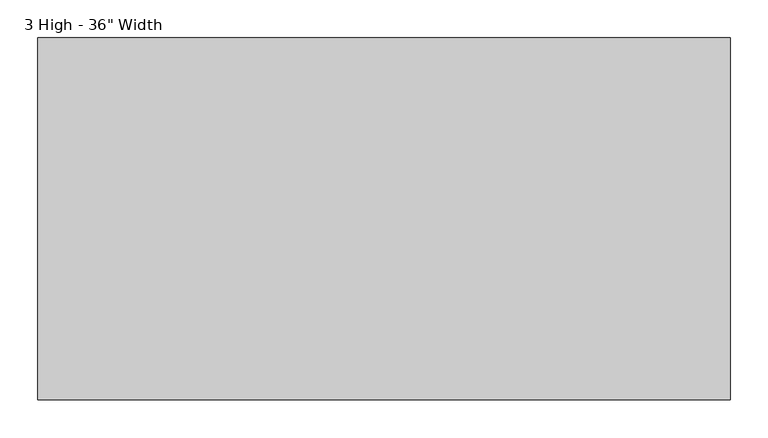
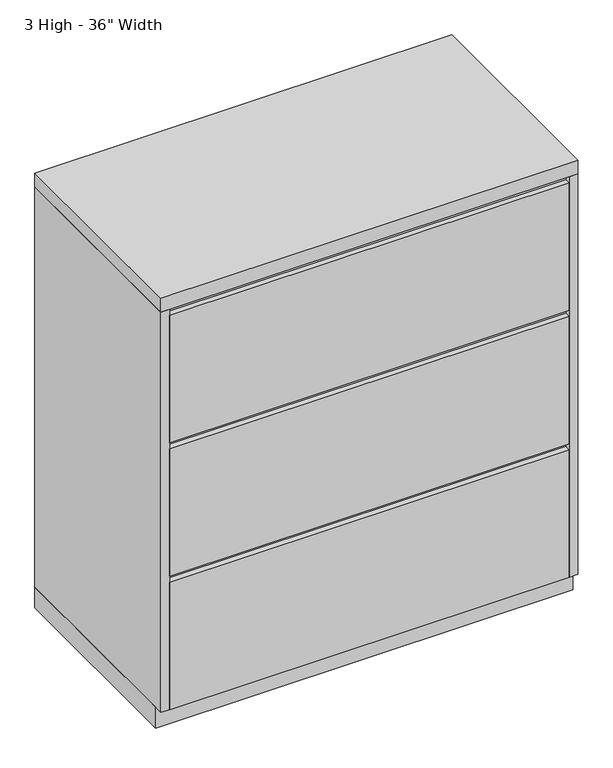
"""IFC4 building model written with IfcOpenShell, lengths in millimetres: furniture geometry."""

from ifc_helpers import new_model, si_unit, frame, origin, origin_with_axes, place, context, project, spatial, polyline, outline, extrude, source, transform, mapped, element, save


def furniture_f4e6c6b2(model_context):
    return source(origin(), model_context, "Body", "SweptSolid", [
        extrude(outline(polyline([(-457.2, 663.575), (-476.25, 663.575), (-476.25, 957.2625), (-463.55, 957.2625), (-463.55, 971.55), (-457.2, 971.55), (-457.2, 663.575)])), frame((-436.5625, 0.0, 0.0), z_axis=(1.0, 0.0, 0.0), x_axis=(0.0, 1.0, 0.0)), (0.0, 0.0, 1.0), 873.125),
        extrude(outline(polyline([(-457.2, 355.6), (-476.25, 355.6), (-476.25, 649.2875), (-463.55, 649.2875), (-463.55, 663.575), (-457.2, 663.575), (-457.2, 355.6)])), frame((-436.5625, 0.0, 0.0), z_axis=(1.0, 0.0, 0.0), x_axis=(0.0, 1.0, 0.0)), (0.0, 0.0, 1.0), 873.125),
        extrude(outline(polyline([(-457.2, 47.625), (-476.25, 47.625), (-476.25, 341.3125), (-463.55, 341.3125), (-463.55, 355.6), (-457.2, 355.6), (-457.2, 47.625)])), frame((-436.5625, 0.0, 0.0), z_axis=(1.0, 0.0, 0.0), x_axis=(0.0, 1.0, 0.0)), (0.0, 0.0, 1.0), 873.125),
        extrude(outline(polyline([(455.6125, 0.0), (455.6125, -457.2), (-455.6125, -457.2), (-455.6125, 0.0), (455.6125, 0.0)])), origin_with_axes(), (0.0, 0.0, 1.0), 47.625),
        extrude(outline(polyline([(455.6125, 0.0), (455.6125, -476.25), (-455.6125, -476.25), (-455.6125, 0.0), (455.6125, 0.0)])), frame((0.0, 0.0, 971.55), z_axis=(0.0, 0.0, 1.0), x_axis=(1.0, 0.0, 0.0)), (0.0, 0.0, 1.0), 31.75),
        extrude(outline(polyline([(455.6125, 0.0), (455.6125, -476.25), (436.5625, -476.25), (436.5625, -19.05), (-436.5625, -19.05), (-436.5625, -476.25), (-455.6125, -476.25), (-455.6125, 0.0), (455.6125, 0.0)])), frame((0.0, 0.0, 47.625), z_axis=(0.0, 0.0, 1.0), x_axis=(1.0, 0.0, 0.0)), (0.0, 0.0, 1.0), 923.925),
    ])


if __name__ == "__main__":
    model = new_model("IFC4")
    model_context = context("Model", 3, world=origin())
    ifc_project = project(units=[si_unit("LENGTHUNIT", "METRE", prefix="MILLI")], contexts=[model_context])
    site = spatial("IfcSite", under=ifc_project)
    building = spatial("IfcBuilding", under=site)
    placement = place(None, origin())
    furniture_shape = furniture_f4e6c6b2(model_context)
    element("IfcFurniture", 1, ObjectType="Haworth_XSeries-Lateral_Files : 3 High - 36\" Width", at=placement, inside=building, context=model_context, shape_type="MappedRepresentation", body=[
        mapped(furniture_shape, transform((0.0, 0.0, 0.0), x_axis=(1.0, 0.0, 0.0), y_axis=(0.0, 1.0, 0.0), z_axis=(0.0, 0.0, 1.0))),
    ])
    save(model, "model.ifc")
